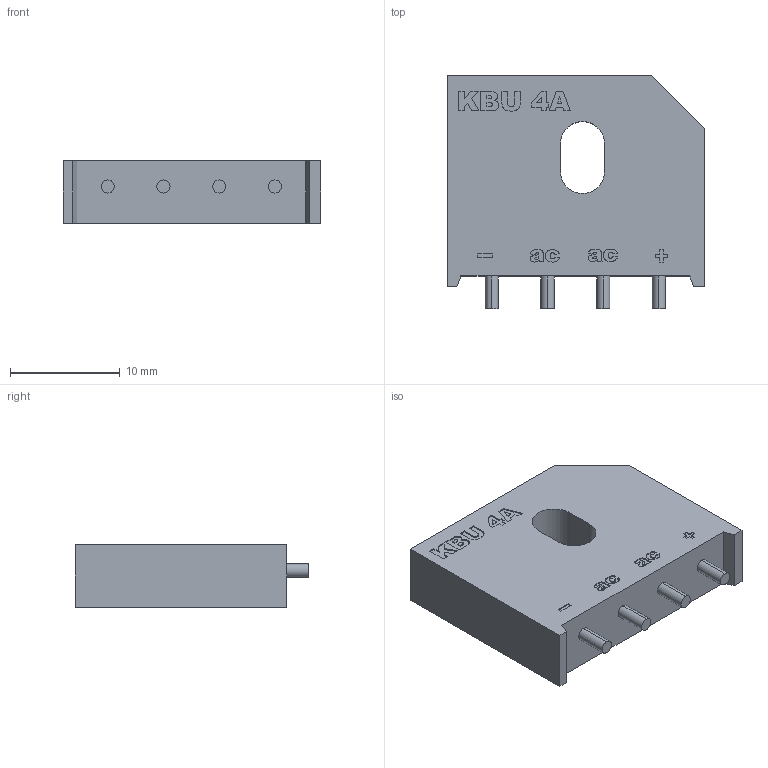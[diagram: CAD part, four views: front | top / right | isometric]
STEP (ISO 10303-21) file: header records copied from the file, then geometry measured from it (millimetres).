
FILE_DESCRIPTION (( 'STEP AP203' ), '1' );
FILE_NAME ('User Library-SIL 4A Bridge Rectifier 1.STEP', '2014-10-26T21:56:17', ( '' ), ( '' ), 'SwSTEP 2.0', 'SolidWorks 2014', '' );
FILE_SCHEMA (( 'CONFIG_CONTROL_DESIGN' ));
Length unit declared in the file: millimetre
Products named in the file (1): User Library-SIL 4A Bridge Rectifier 1
Bounding box: 23.5 x 21.3 x 5.7 mm (x, y, z)
Volume: 2279.3 mm3; surface area: 1429 mm2
Topology: 1 solids, 1 shells, 201 faces, 534 edges, 356 vertices
Faces by surface type: plane 114, bspline 77, cylinder 10
Entity records: 9291 total; most frequent: CARTESIAN_POINT 4713, ORIENTED_EDGE 1068, DIRECTION 650, EDGE_CURVE 534, LINE 360, VECTOR 360, VERTEX_POINT 356, EDGE_LOOP 224
